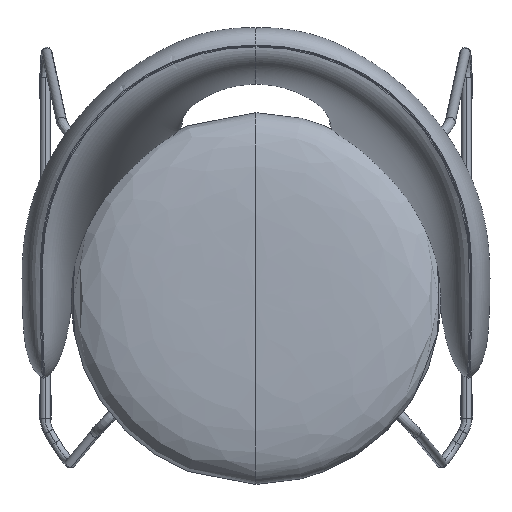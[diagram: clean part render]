
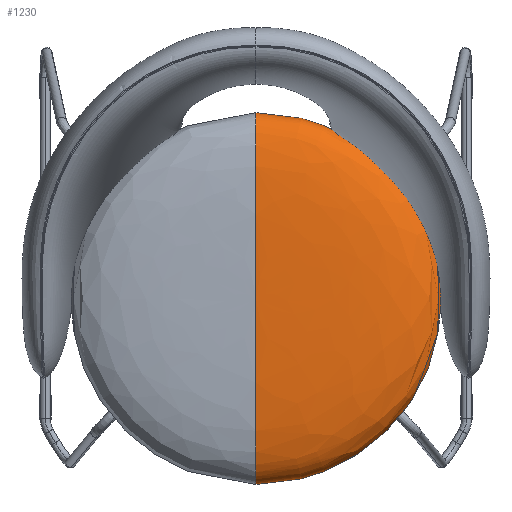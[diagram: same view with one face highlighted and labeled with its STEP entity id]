
A CAD part, top view. The second image highlights one B-rep face of the part: STEP entity #1230.
In plain terms, the highlighted free-form (B-spline) face has degree [3, 2] with [8, 5] control points.
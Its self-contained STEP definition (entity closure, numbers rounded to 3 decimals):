
#465=B_SPLINE_CURVE_WITH_KNOTS('',3,(#115031,#115032,#115033,#115034,#115035,
#115036,#115037,#115038),.UNSPECIFIED.,.F.,.F.,(4,3,1,4),(-265.,
0.,117.5,235.),.UNSPECIFIED.);
#466=B_SPLINE_CURVE_WITH_KNOTS('',3,(#115039,#115040,#115041,#115042,#115043,
#115044,#115045,#115046),.UNSPECIFIED.,.F.,.F.,(4,3,1,4),(-265.,
0.,117.5,235.),.UNSPECIFIED.);
#1230=ADVANCED_FACE('',(#1444),#5166,.T.);
#1444=FACE_OUTER_BOUND('',#1658,.T.);
#1658=EDGE_LOOP('',(#2566,#2567));
#2566=ORIENTED_EDGE('',*,*,#3416,.T.);
#2567=ORIENTED_EDGE('',*,*,#3417,.F.);
#3416=EDGE_CURVE('',#5080,#5081,#465,.T.);
#3417=EDGE_CURVE('',#5080,#5081,#466,.T.);
#5080=VERTEX_POINT('',#115029);
#5081=VERTEX_POINT('',#115030);
#5166=(
BOUNDED_SURFACE()
B_SPLINE_SURFACE(3,2,((#114949,#114950,#114951,#114952,#114953),(#114954,
#114955,#114956,#114957,#114958),(#114959,#114960,#114961,#114962,#114963),
(#114964,#114965,#114966,#114967,#114968),(#114969,#114970,#114971,#114972,
#114973),(#114974,#114975,#114976,#114977,#114978),(#114979,#114980,#114981,
#114982,#114983),(#114984,#114985,#114986,#114987,#114988)),
 .UNSPECIFIED.,.F.,.F.,.F.)
B_SPLINE_SURFACE_WITH_KNOTS((4,3,1,4),(3,2,3),(-265.,0.,117.5,
235.),(0.,345.574,691.148),.UNSPECIFIED.)
GEOMETRIC_REPRESENTATION_ITEM()
RATIONAL_B_SPLINE_SURFACE(((1.,0.707,1.,0.707,1.),
(1.,0.707,1.,0.707,1.),(1.,0.707,1.,
0.707,1.),(1.,0.707,1.,0.707,1.),(1.,
0.707,1.,0.707,1.),(1.,0.707,1.,0.707,
1.),(1.,0.707,1.,0.707,1.),(1.,0.707,
1.,0.707,1.)))
REPRESENTATION_ITEM('')
SURFACE()
);
#114949=CARTESIAN_POINT('',(4136.601,99.115,470.));
#114950=CARTESIAN_POINT('',(4136.601,99.115,470.));
#114951=CARTESIAN_POINT('',(4136.601,99.115,470.));
#114952=CARTESIAN_POINT('',(4136.601,99.115,470.));
#114953=CARTESIAN_POINT('',(4136.601,99.115,470.));
#114954=CARTESIAN_POINT('',(4136.601,-39.265,470.));
#114955=CARTESIAN_POINT('',(4274.981,-39.265,470.));
#114956=CARTESIAN_POINT('',(4274.981,99.115,470.));
#114957=CARTESIAN_POINT('',(4274.981,237.495,470.));
#114958=CARTESIAN_POINT('',(4136.601,237.495,470.));
#114959=CARTESIAN_POINT('',(4136.601,-120.885,470.));
#114960=CARTESIAN_POINT('',(4356.601,-120.885,470.));
#114961=CARTESIAN_POINT('',(4356.601,99.115,470.));
#114962=CARTESIAN_POINT('',(4356.601,319.115,470.));
#114963=CARTESIAN_POINT('',(4136.601,319.115,470.));
#114964=CARTESIAN_POINT('',(4136.601,-120.885,425.));
#114965=CARTESIAN_POINT('',(4356.601,-120.885,425.));
#114966=CARTESIAN_POINT('',(4356.601,99.115,425.));
#114967=CARTESIAN_POINT('',(4356.601,319.115,425.));
#114968=CARTESIAN_POINT('',(4136.601,319.115,425.));
#114969=CARTESIAN_POINT('',(4136.601,-120.885,410.));
#114970=CARTESIAN_POINT('',(4356.601,-120.885,410.));
#114971=CARTESIAN_POINT('',(4356.601,99.115,410.));
#114972=CARTESIAN_POINT('',(4356.601,319.115,410.));
#114973=CARTESIAN_POINT('',(4136.601,319.115,410.));
#114974=CARTESIAN_POINT('',(4136.601,-106.164,410.));
#114975=CARTESIAN_POINT('',(4341.88,-106.164,410.));
#114976=CARTESIAN_POINT('',(4341.88,99.115,410.));
#114977=CARTESIAN_POINT('',(4341.88,304.394,410.));
#114978=CARTESIAN_POINT('',(4136.601,304.394,410.));
#114979=CARTESIAN_POINT('',(4136.601,-70.003,410.));
#114980=CARTESIAN_POINT('',(4305.719,-70.003,410.));
#114981=CARTESIAN_POINT('',(4305.719,99.115,410.));
#114982=CARTESIAN_POINT('',(4305.719,268.233,410.));
#114983=CARTESIAN_POINT('',(4136.601,268.233,410.));
#114984=CARTESIAN_POINT('',(4136.601,99.115,410.));
#114985=CARTESIAN_POINT('',(4136.601,99.115,410.));
#114986=CARTESIAN_POINT('',(4136.601,99.115,410.));
#114987=CARTESIAN_POINT('',(4136.601,99.115,410.));
#114988=CARTESIAN_POINT('',(4136.601,99.115,410.));
#115029=CARTESIAN_POINT('',(4136.601,99.115,470.));
#115030=CARTESIAN_POINT('',(4136.601,99.115,410.));
#115031=CARTESIAN_POINT('',(4136.601,99.115,470.));
#115032=CARTESIAN_POINT('',(4136.601,-39.265,470.));
#115033=CARTESIAN_POINT('',(4136.601,-120.885,470.));
#115034=CARTESIAN_POINT('',(4136.601,-120.885,425.));
#115035=CARTESIAN_POINT('',(4136.601,-120.885,410.));
#115036=CARTESIAN_POINT('',(4136.601,-106.164,410.));
#115037=CARTESIAN_POINT('',(4136.601,-70.003,410.));
#115038=CARTESIAN_POINT('',(4136.601,99.115,410.));
#115039=CARTESIAN_POINT('',(4136.601,99.115,470.));
#115040=CARTESIAN_POINT('',(4136.601,237.495,470.));
#115041=CARTESIAN_POINT('',(4136.601,319.115,470.));
#115042=CARTESIAN_POINT('',(4136.601,319.115,425.));
#115043=CARTESIAN_POINT('',(4136.601,319.115,410.));
#115044=CARTESIAN_POINT('',(4136.601,304.394,410.));
#115045=CARTESIAN_POINT('',(4136.601,268.233,410.));
#115046=CARTESIAN_POINT('',(4136.601,99.115,410.));
